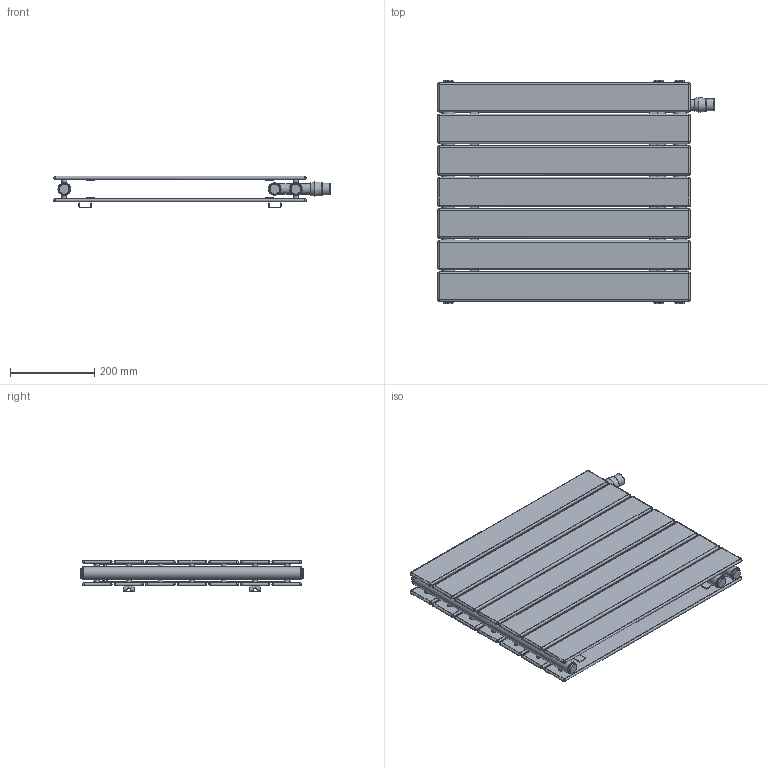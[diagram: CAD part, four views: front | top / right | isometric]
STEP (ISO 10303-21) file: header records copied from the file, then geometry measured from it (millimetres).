
FILE_DESCRIPTION(/* description */ (''),/* implementation_level */ '2;1');
FILE_NAME(/* name */ 'C:\Grzejniki\13DLUXRAD\pokojowe\NIAGARA\to\NIAGARA PODWÓJNA POZIOMA Z WKŁADKĄ TERMOSTATYCZNĄ 520x600.iam.stp',/* time_stamp */ '2016-06-28T17:33:43+02:00',/* author */ ('m.szydziak'),/* organization */ (''),/* preprocessor_version */ 'ST-DEVELOPER v16.5',/* originating_system */ 'Autodesk Inventor 2017',/* authorisation */ '');
FILE_SCHEMA (('AUTOMOTIVE_DESIGN { 1 0 10303 214 3 1 1 }'));
Length unit declared in the file: millimetre
Products named in the file (9): NIAGARA PODWÓJNA POZIOMA Z WKŁADKĄ TERMOSTA
TYCZNĄ 520x600; NIAGARA PODWÓJNA 600x520; 70x8x1,2x604; michałek; poprzeczka 470; ucho małe; fi30x1,5x520; Głowica Termostatyczna; korek
Assembly tree (61 placements, depth 3):
  NIAGARA PODWÓJNA POZIOMA Z WKŁADKĄ TERMOSTA
TYCZNĄ 520x600
    NIAGARA PODWÓJNA 600x520
      fi30x1,5x520  x2
      70x8x1,2x604  x14
      michałek  x28
      poprzeczka 470  x4
      ucho małe  x4
      korek  x4
    fi30x1,5x520
    Głowica Termostatyczna
    korek  x2
Bounding box: 656.85 x 532 x 75 mm (x, y, z)
Volume: 1887481.8 mm3; surface area: 2868699.3 mm2
Topology: 60 solids, 60 shells, 794 faces, 1767 edges, 1077 vertices
Faces by surface type: plane 368, cylinder 292, sphere 112, bspline 16, torus 4, cone 2
Full cylindrical faces by diameter (mm): 8 x28, 9 x28, 10 x28, 11.5 x28, 18.631 x6, 24 x6, 25 x1, 27 x3, 28 x1, 30 x3
Entity records: 3952 total; most frequent: CARTESIAN_POINT 929, DIRECTION 654, ORIENTED_EDGE 452, AXIS2_PLACEMENT_3D 265, EDGE_CURVE 226, VERTEX_POINT 150, EDGE_LOOP 142, LINE 124
